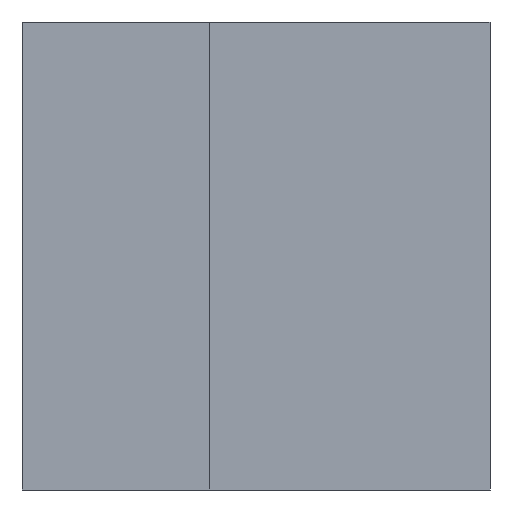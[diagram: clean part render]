
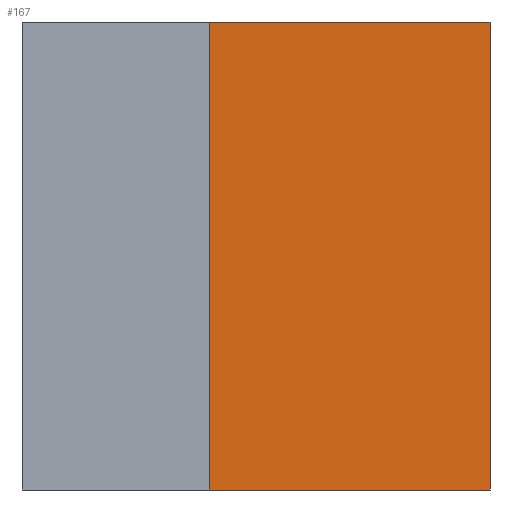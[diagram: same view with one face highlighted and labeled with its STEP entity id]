
A CAD part, front view. The second image highlights one B-rep face of the part: STEP entity #167.
In plain terms, the highlighted planar face has unit normal (0, -1, 0).
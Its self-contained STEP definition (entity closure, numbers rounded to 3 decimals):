
#1 = DIRECTION ( 'NONE',  ( 0., 1., 0. ) ) ;
#2 = DIRECTION ( 'NONE',  ( 0., 0., 1. ) ) ;
#64 = EDGE_CURVE ( 'NONE', #83, #73, #333, .T. ) ;
#73 = VERTEX_POINT ( 'NONE', #407 ) ;
#74 = EDGE_CURVE ( 'NONE', #180, #188, #411, .T. ) ;
#83 = VERTEX_POINT ( 'NONE', #382 ) ;
#163 = ORIENTED_EDGE ( 'NONE', *, *, #184, .T. ) ;
#167 = ADVANCED_FACE ( 'NONE', ( #259 ), #455, .F. ) ;
#168 = EDGE_LOOP ( 'NONE', ( #178, #182, #177, #163 ) ) ;
#174 = EDGE_CURVE ( 'NONE', #188, #73, #651, .T. ) ;
#177 = ORIENTED_EDGE ( 'NONE', *, *, #74, .F. ) ;
#178 = ORIENTED_EDGE ( 'NONE', *, *, #64, .T. ) ;
#180 = VERTEX_POINT ( 'NONE', #599 ) ;
#182 = ORIENTED_EDGE ( 'NONE', *, *, #174, .F. ) ;
#184 = EDGE_CURVE ( 'NONE', #180, #83, #519, .T. ) ;
#188 = VERTEX_POINT ( 'NONE', #581 ) ;
#259 = FACE_OUTER_BOUND ( 'NONE', #168, .T. ) ;
#329 = DIRECTION ( 'NONE',  ( 1., 0., 0. ) ) ;
#330 = VECTOR ( 'NONE', #329, 1000. ) ;
#331 = CARTESIAN_POINT ( 'NONE',  ( 0., 0., 0. ) ) ;
#333 = LINE ( 'NONE', #331, #330 ) ;
#382 = CARTESIAN_POINT ( 'NONE',  ( 0., 0., 0. ) ) ;
#401 = DIRECTION ( 'NONE',  ( 1., 0., 0. ) ) ;
#402 = VECTOR ( 'NONE', #401, 1000. ) ;
#407 = CARTESIAN_POINT ( 'NONE',  ( 9., 0., 0. ) ) ;
#410 = CARTESIAN_POINT ( 'NONE',  ( 0., 0., 15. ) ) ;
#411 = LINE ( 'NONE', #410, #402 ) ;
#455 = PLANE ( 'NONE',  #464 ) ;
#464 = AXIS2_PLACEMENT_3D ( 'NONE', #477, #1, #2 ) ;
#477 = CARTESIAN_POINT ( 'NONE',  ( 0., 0., 15. ) ) ;
#519 = LINE ( 'NONE', #601, #520 ) ;
#520 = VECTOR ( 'NONE', #600, 1000. ) ;
#521 = VECTOR ( 'NONE', #546, 1000. ) ;
#546 = DIRECTION ( 'NONE',  ( 0., 0., -1. ) ) ;
#581 = CARTESIAN_POINT ( 'NONE',  ( 9., 0., 15. ) ) ;
#599 = CARTESIAN_POINT ( 'NONE',  ( 0., 0., 15. ) ) ;
#600 = DIRECTION ( 'NONE',  ( 0., 0., -1. ) ) ;
#601 = CARTESIAN_POINT ( 'NONE',  ( 0., 0., 15. ) ) ;
#629 = CARTESIAN_POINT ( 'NONE',  ( 9., 0., 15. ) ) ;
#651 = LINE ( 'NONE', #629, #521 ) ;
